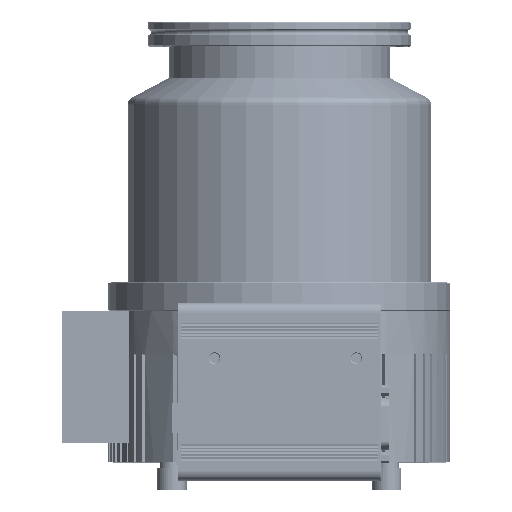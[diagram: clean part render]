
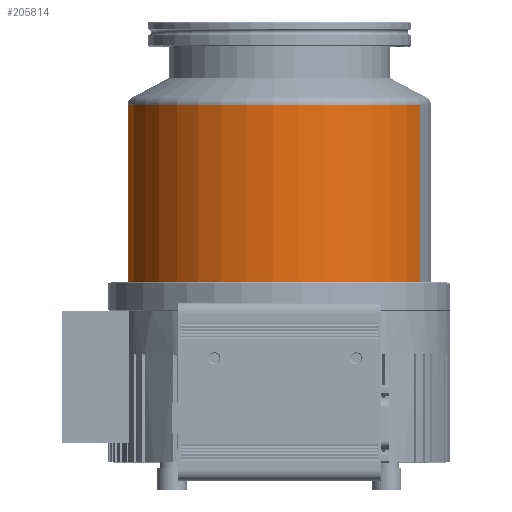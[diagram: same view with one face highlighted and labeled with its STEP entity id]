
A CAD part, top view. The second image highlights one B-rep face of the part: STEP entity #205814.
In plain terms, the highlighted cylindrical face has radius 75 mm (diameter 150 mm), a partial arc.
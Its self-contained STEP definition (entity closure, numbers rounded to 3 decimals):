
#6102 = ORIENTED_EDGE ( 'NONE', *, *, #17753, .T. ) ;
#10461 = CARTESIAN_POINT ( 'NONE',  ( 0., 101.697, 0. ) ) ;
#17753 = EDGE_CURVE ( 'NONE', #126676, #170331, #43464, .T. ) ;
#39824 = VECTOR ( 'NONE', #183437, 1000. ) ;
#43464 = LINE ( 'NONE', #113469, #39824 ) ;
#44180 = AXIS2_PLACEMENT_3D ( 'NONE', #157056, #68777, #117026 ) ;
#47912 = CYLINDRICAL_SURFACE ( 'NONE', #63687, 75. ) ;
#51318 = DIRECTION ( 'NONE',  ( 0., 0., -1. ) ) ;
#63687 = AXIS2_PLACEMENT_3D ( 'NONE', #208523, #117911, #51318 ) ;
#68777 = DIRECTION ( 'NONE',  ( 0., -1., 0. ) ) ;
#69751 = CIRCLE ( 'NONE', #44180, 75. ) ;
#75775 = EDGE_CURVE ( 'NONE', #140058, #205668, #221527, .T. ) ;
#80534 = DIRECTION ( 'NONE',  ( 0., -1., 0. ) ) ;
#88787 = ORIENTED_EDGE ( 'NONE', *, *, #103169, .F. ) ;
#103169 = EDGE_CURVE ( 'NONE', #205668, #170331, #69751, .T. ) ;
#110821 = ORIENTED_EDGE ( 'NONE', *, *, #75775, .F. ) ;
#113469 = CARTESIAN_POINT ( 'NONE',  ( 0., 0., -75. ) ) ;
#117026 = DIRECTION ( 'NONE',  ( 0., 0., -1. ) ) ;
#117911 = DIRECTION ( 'NONE',  ( 0., -1., 0. ) ) ;
#125419 = CARTESIAN_POINT ( 'NONE',  ( 0., 101.697, 75. ) ) ;
#126676 = VERTEX_POINT ( 'NONE', #198793 ) ;
#130739 = EDGE_LOOP ( 'NONE', ( #110821, #135500, #6102, #88787 ) ) ;
#135500 = ORIENTED_EDGE ( 'NONE', *, *, #198101, .T. ) ;
#140058 = VERTEX_POINT ( 'NONE', #125419 ) ;
#140435 = CARTESIAN_POINT ( 'NONE',  ( 0., 14., 75. ) ) ;
#150456 = DIRECTION ( 'NONE',  ( 0., 0., -1. ) ) ;
#157056 = CARTESIAN_POINT ( 'NONE',  ( 0., 14., 0. ) ) ;
#168743 = DIRECTION ( 'NONE',  ( 0., -1., 0. ) ) ;
#170331 = VERTEX_POINT ( 'NONE', #182274 ) ;
#171798 = FACE_OUTER_BOUND ( 'NONE', #130739, .T. ) ;
#182274 = CARTESIAN_POINT ( 'NONE',  ( 0., 14., -75. ) ) ;
#183437 = DIRECTION ( 'NONE',  ( 0., -1., 0. ) ) ;
#187094 = CARTESIAN_POINT ( 'NONE',  ( 0., 0., 75. ) ) ;
#198101 = EDGE_CURVE ( 'NONE', #140058, #126676, #218970, .T. ) ;
#198793 = CARTESIAN_POINT ( 'NONE',  ( 0., 101.697, -75. ) ) ;
#205668 = VERTEX_POINT ( 'NONE', #140435 ) ;
#205814 = ADVANCED_FACE ( 'NONE', ( #171798 ), #47912, .T. ) ;
#208020 = AXIS2_PLACEMENT_3D ( 'NONE', #10461, #80534, #150456 ) ;
#208523 = CARTESIAN_POINT ( 'NONE',  ( 0., 0., 0. ) ) ;
#218970 = CIRCLE ( 'NONE', #208020, 75. ) ;
#221527 = LINE ( 'NONE', #187094, #221827 ) ;
#221827 = VECTOR ( 'NONE', #168743, 1000. ) ;
